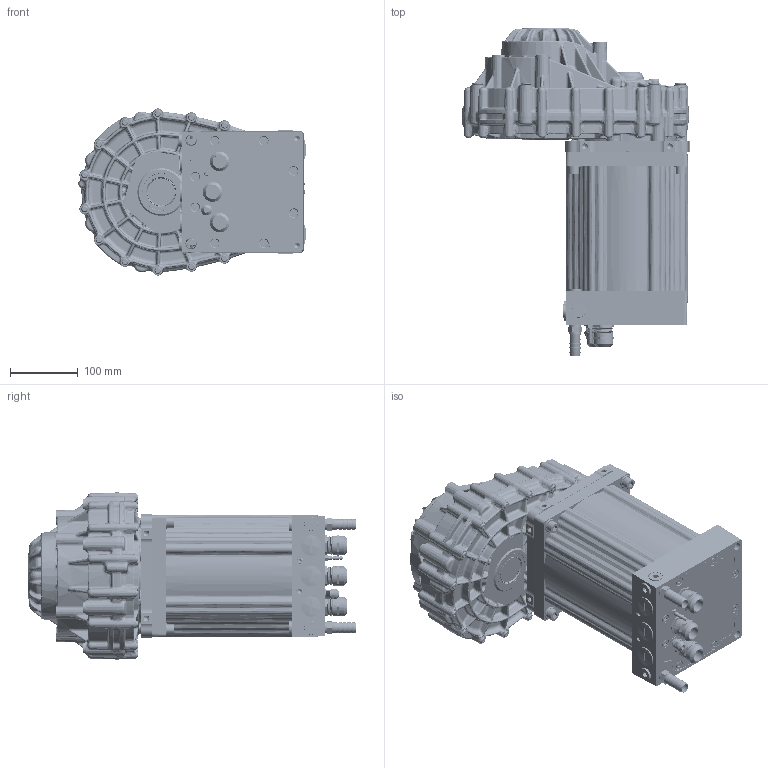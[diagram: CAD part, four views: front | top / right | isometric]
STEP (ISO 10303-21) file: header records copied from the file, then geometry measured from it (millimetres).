
FILE_DESCRIPTION(('CATIA V5 STEP Exchange'),'2;1');
FILE_NAME('R:\180___SWIND_PRODUCTS\001___R&D\002___DESIGN_FILES\180-100-032___HPD-L_128_DRIVE_UNIT_4WD\180-100-032.00___HPD-L_128_DRIVE_UNIT_4WD.stp','2022-06-23T15:04:23+00:00',('none'),('none'),'CATIA Version 5 Release 20 GA (IN-10)','CATIA V5 STEP AP203','none');
FILE_SCHEMA(('CONFIG_CONTROL_DESIGN'));
Products named in the file (1): 180-100-032
Bounding box: 335.35 x 484 x 246.26 mm (x, y, z)
Volume: 12478362 mm3; surface area: 917659.1 mm2
Topology: 18 solids, 91 shells, 12514 faces, 30676 edges, 18088 vertices
Faces by surface type: bspline 5820, cylinder 1887, plane 1495, torus 1218, cone 1136, sphere 441, extrusion 440, revolution 77
Entity records: 634381 total; most frequent: CARTESIAN_POINT 413769, ORIENTED_EDGE 60248, EDGE_CURVE 30124, DIRECTION 20412, VERTEX_POINT 18088, B_SPLINE_CURVE_WITH_KNOTS 16728, EDGE_LOOP 12968, ADVANCED_FACE 12514
